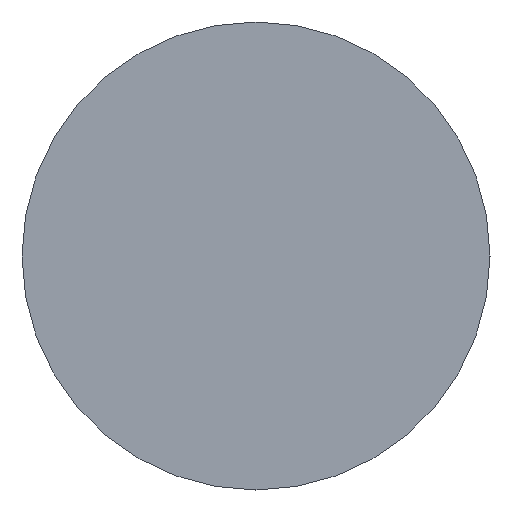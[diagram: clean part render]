
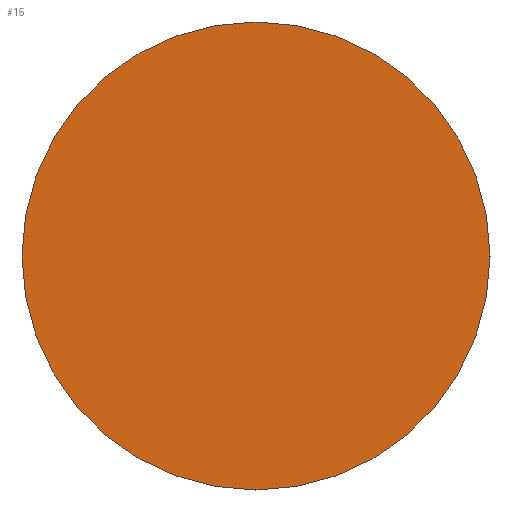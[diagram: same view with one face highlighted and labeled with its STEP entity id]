
A CAD part, left-side view. The second image highlights one B-rep face of the part: STEP entity #15.
In plain terms, the highlighted planar face has unit normal (-1, 0, 0).
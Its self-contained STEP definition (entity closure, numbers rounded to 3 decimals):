
#10 = ORIENTED_EDGE ( 'NONE', *, *, #128, .T. ) ;
#15 = ADVANCED_FACE ( 'NONE', ( #137 ), #138, .F. ) ;
#28 = ORIENTED_EDGE ( 'NONE', *, *, #43, .T. ) ;
#43 = EDGE_CURVE ( 'NONE', #316, #52, #259, .T. ) ;
#52 = VERTEX_POINT ( 'NONE', #71 ) ;
#54 = EDGE_LOOP ( 'NONE', ( #10, #28 ) ) ;
#71 = CARTESIAN_POINT ( 'NONE',  ( 0., 0., 20. ) ) ;
#125 = CIRCLE ( 'NONE', #126, 20. ) ;
#126 = AXIS2_PLACEMENT_3D ( 'NONE', #127, #129, #130 ) ;
#127 = CARTESIAN_POINT ( 'NONE',  ( 0., 0., 0. ) ) ;
#128 = EDGE_CURVE ( 'NONE', #52, #316, #125, .T. ) ;
#129 = DIRECTION ( 'NONE',  ( -1., 0., 0. ) ) ;
#130 = DIRECTION ( 'NONE',  ( 0., 0., 1. ) ) ;
#137 = FACE_OUTER_BOUND ( 'NONE', #54, .T. ) ;
#138 = PLANE ( 'NONE',  #139 ) ;
#139 = AXIS2_PLACEMENT_3D ( 'NONE', #140, #141, #142 ) ;
#140 = CARTESIAN_POINT ( 'NONE',  ( 0., 20., 0. ) ) ;
#141 = DIRECTION ( 'NONE',  ( 1., 0., 0. ) ) ;
#142 = DIRECTION ( 'NONE',  ( 0., 0., -1. ) ) ;
#227 = CARTESIAN_POINT ( 'NONE',  ( 0., 0., -20. ) ) ;
#259 = CIRCLE ( 'NONE', #260, 20. ) ;
#260 = AXIS2_PLACEMENT_3D ( 'NONE', #261, #262, #263 ) ;
#261 = CARTESIAN_POINT ( 'NONE',  ( 0., 0., 0. ) ) ;
#262 = DIRECTION ( 'NONE',  ( -1., 0., 0. ) ) ;
#263 = DIRECTION ( 'NONE',  ( 0., 0., 1. ) ) ;
#316 = VERTEX_POINT ( 'NONE', #227 ) ;
